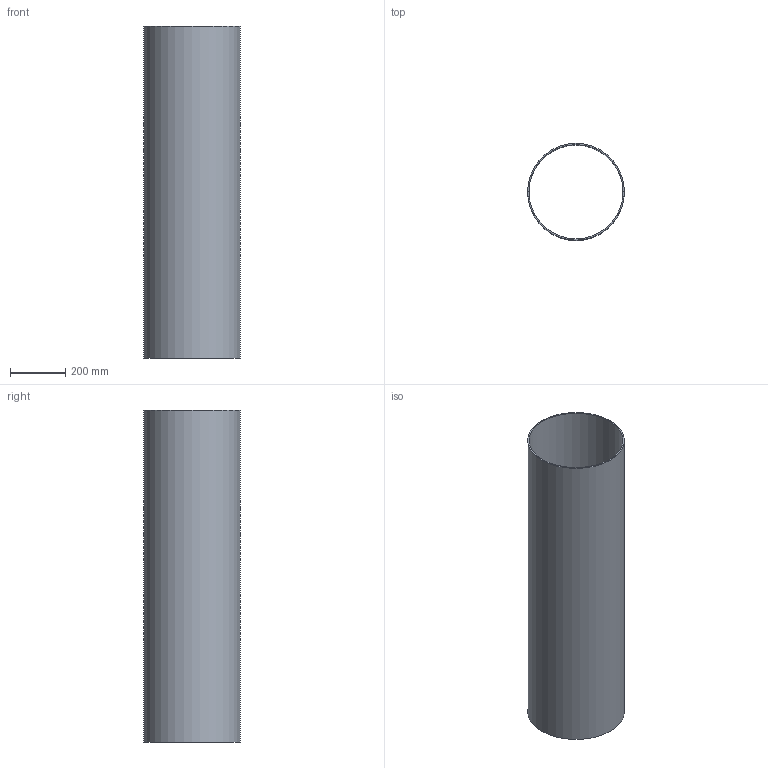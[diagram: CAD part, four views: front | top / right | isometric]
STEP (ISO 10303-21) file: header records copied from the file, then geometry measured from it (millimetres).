
FILE_DESCRIPTION(('Open CASCADE Model'),'2;1');
FILE_NAME('Open CASCADE Shape Model','2026-02-11T21:32:42',('Author'),( 'Open CASCADE'),'Open CASCADE STEP processor 7.8','Open CASCADE 7.8' ,'Unknown');
FILE_SCHEMA(('AUTOMOTIVE_DESIGN { 1 0 10303 214 1 1 1 1 }'));
Length unit declared in the file: millimetre
Products named in the file (1): Open CASCADE STEP translator 7.8 1
Bounding box: 350 x 350 x 1200 mm (x, y, z)
Volume: 6503096.8 mm3; surface area: 2612077.2 mm2
Topology: 1 solids, 1 shells, 4 faces, 6 edges, 4 vertices
Faces by surface type: cylinder 2, plane 2
Full cylindrical faces by diameter (mm): 340 x1, 350 x1
Entity records: 186 total; most frequent: DIRECTION 32, CARTESIAN_POINT 27, ORIENTED_EDGE 12, PCURVE 12, DEFINITIONAL_REPRESENTATION 12, LINE 10, VECTOR 10, AXIS2_PLACEMENT_3D 9
